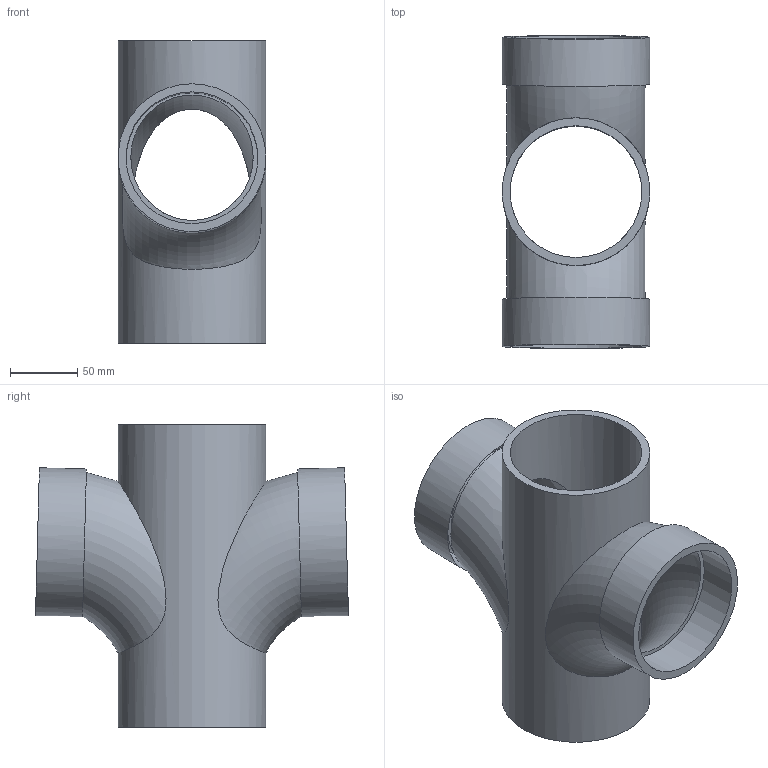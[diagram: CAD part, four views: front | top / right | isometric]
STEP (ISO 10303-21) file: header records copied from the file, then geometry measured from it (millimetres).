
FILE_DESCRIPTION(/* description */ (''),/* implementation_level */ '2;1');
FILE_NAME(/* name */ 'H:\Geberit-Teile\Export\310.102.14.1\stp\310102.stp',/* time_stamp */ '2016-06-10T09:03:13+02:00',/* author */ ('seihe2'),/* organization */ (''),/* preprocessor_version */ 'ST-DEVELOPER v15.2',/* originating_system */ 'Autodesk Inventor 2014',/* authorisation */ '');
FILE_SCHEMA (('AUTOMOTIVE_DESIGN { 1 0 10303 214 3 1 1 }'));
Length unit declared in the file: millimetre
Products named in the file (1): 310102
Bounding box: 110 x 232.8 x 225 mm (x, y, z)
Volume: 639176.9 mm3; surface area: 221160.9 mm2
Topology: 1 solids, 1 shells, 18 faces, 40 edges, 26 vertices
Faces by surface type: plane 8, cylinder 6, torus 4
Full cylindrical faces by diameter (mm): 98 x3, 110 x3
Entity records: 907 total; most frequent: CARTESIAN_POINT 541, DIRECTION 62, ORIENTED_EDGE 44, EDGE_LOOP 38, AXIS2_PLACEMENT_3D 31, FACE_BOUND 28, EDGE_CURVE 22, VERTEX_POINT 20
